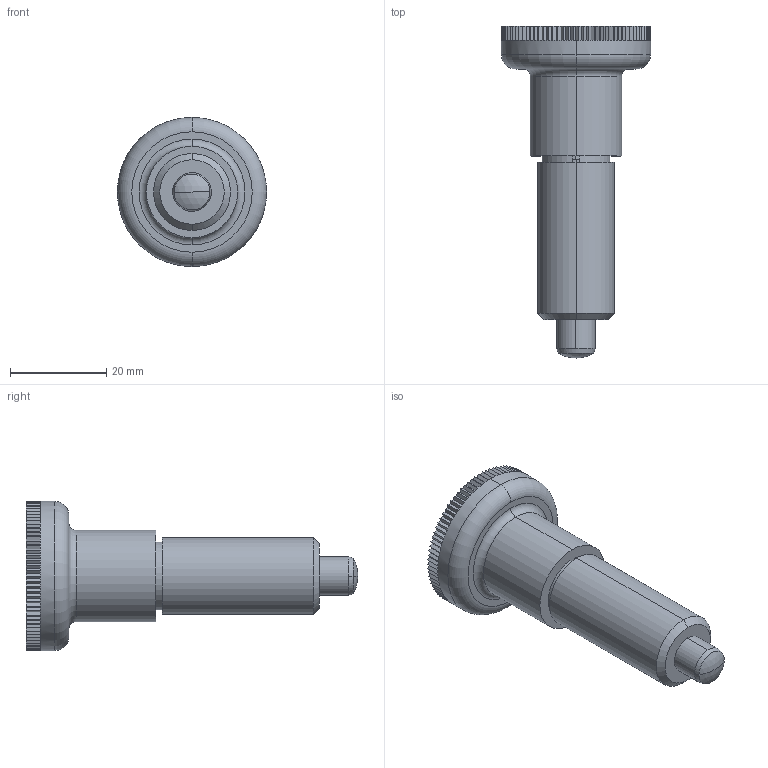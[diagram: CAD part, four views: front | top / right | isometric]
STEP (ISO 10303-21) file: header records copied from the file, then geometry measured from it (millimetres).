
FILE_DESCRIPTION (( 'STEP AP203' ), '1' );
FILE_NAME ('32742.W0707.step', '2011-04-26T13:37:22', ( 'Wixroyd' ), ( 'Wixroyd' ), 'SwSTEP 2.0', 'SolidWorks 2009', '' );
FILE_SCHEMA (( 'CONFIG_CONTROL_DESIGN' ));
Length unit declared in the file: millimetre
Products named in the file (5): Part4_3274.W448; Part1_3274.W448; Part2_3274.W448; 32742.W0707; Part3_3274.W448
Assembly tree (4 placements, depth 2):
  32742.W0707
    Part1_3274.W448
    Part3_3274.W448
    Part4_3274.W448
    Part2_3274.W448
Bounding box: 31 x 69 x 31 mm (x, y, z)
Volume: 17060.8 mm3; surface area: 8582.1 mm2
Topology: 4 solids, 4 shells, 414 faces, 1002 edges, 604 vertices
Faces by surface type: plane 368, cylinder 30, cone 8, torus 4, sphere 4
Entity records: 12329 total; most frequent: DIRECTION 2072, CARTESIAN_POINT 2027, ORIENTED_EDGE 2004, EDGE_CURVE 1002, LINE 774, VECTOR 774, AXIS2_PLACEMENT_3D 649, VERTEX_POINT 604
